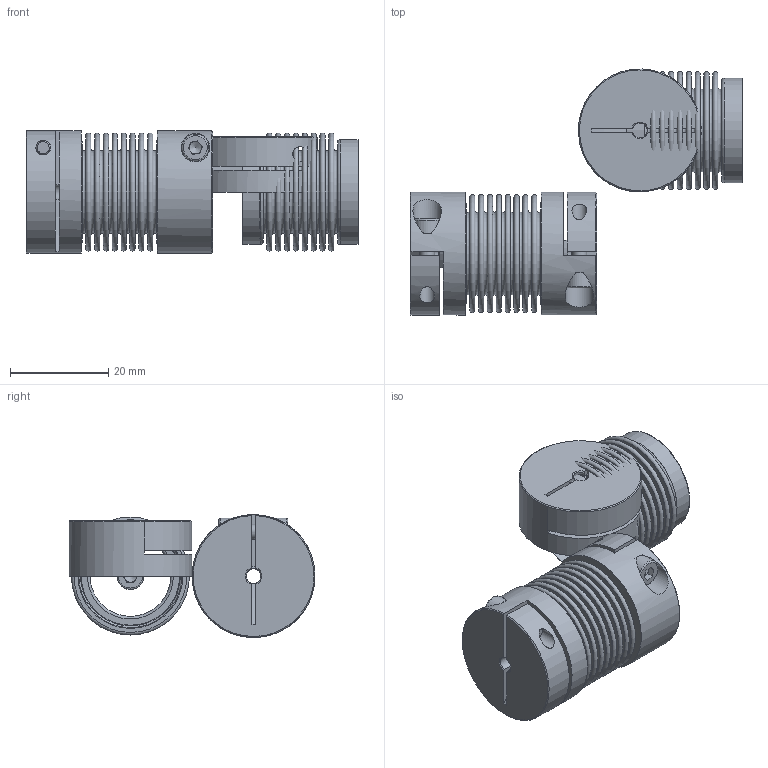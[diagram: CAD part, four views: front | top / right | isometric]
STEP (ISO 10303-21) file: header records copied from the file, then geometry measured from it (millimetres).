
FILE_DESCRIPTION( ( 'Unknown' ), '1' );
FILE_NAME( 'C:/Dokumente und Einstellungen/Sven/Desktop/cad - homepage/KB2/KB2-20-38.stp', 'Unknown', ( 'Unknown' ), ( 'Unknown' ), 'XStep 1.0', 'Unknown', ' ' );
FILE_SCHEMA( ( 'automotive_design' ) );
Length unit declared in the file: millimetre
Products named in the file (4): Assem1; Socket Head Cap Screw_DIN_DIN 912 M3 x 10 --- 10N_0; BM20_Standard; KN20_Standard_0
Bounding box: 67.53 x 50.03 x 24.98 mm (x, y, z)
Volume: 16845.3 mm3; surface area: 28850.8 mm2
Topology: 8 solids, 8 shells, 286 faces, 572 edges, 371 vertices
Faces by surface type: plane 148, torus 82, cylinder 41, cone 15
Full cylindrical faces by diameter (mm): 3 x9, 3.2 x3, 5.5 x3, 21 x4, 21.3 x4, 25 x3
Entity records: 3584 total; most frequent: CARTESIAN_POINT 563, DIRECTION 527, ORIENTED_EDGE 336, AXIS2_PLACEMENT_3D 242, EDGE_LOOP 219, FACE_OUTER_BOUND 171, EDGE_CURVE 168, VERTEX_POINT 142
